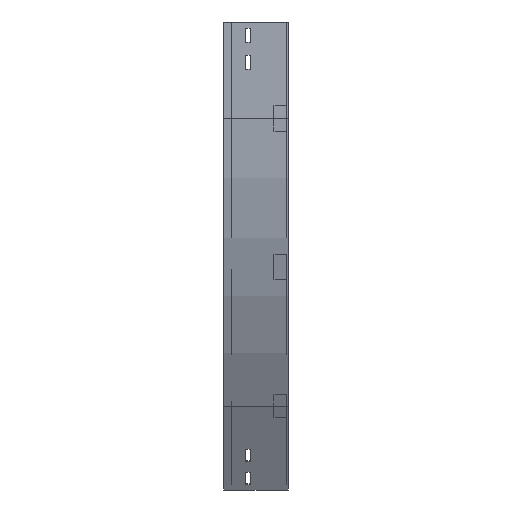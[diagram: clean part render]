
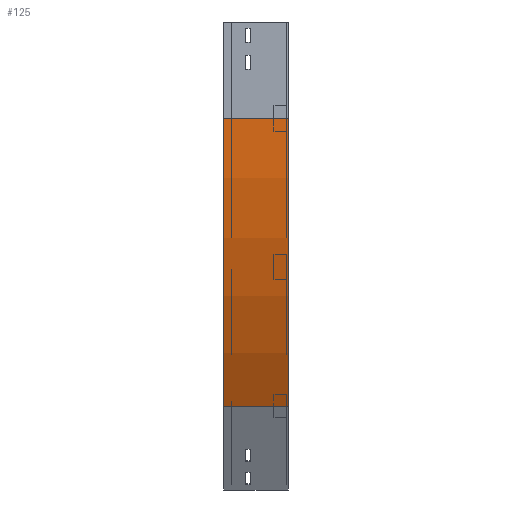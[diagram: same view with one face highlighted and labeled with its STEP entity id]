
A CAD part, left-side view. The second image highlights one B-rep face of the part: STEP entity #125.
In plain terms, the highlighted cylindrical face has radius 900 mm (diameter 1800 mm), a partial arc.
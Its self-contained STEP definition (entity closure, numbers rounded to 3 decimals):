
#45 = DIRECTION ( 'NONE',  ( 0., -1., 0. ) ) ;
#96 = CARTESIAN_POINT ( 'NONE',  ( 120.577, 0., -600. ) ) ;
#125 = ADVANCED_FACE ( 'NONE', ( #3078 ), #1334, .T. ) ;
#146 = DIRECTION ( 'NONE',  ( 0., 0., -1. ) ) ;
#183 = AXIS2_PLACEMENT_3D ( 'NONE', #579, #942, #921 ) ;
#185 = LINE ( 'NONE', #2863, #2512 ) ;
#296 = EDGE_CURVE ( 'NONE', #1689, #575, #185, .T. ) ;
#575 = VERTEX_POINT ( 'NONE', #3126 ) ;
#579 = CARTESIAN_POINT ( 'NONE',  ( 900., 0., -150. ) ) ;
#662 = ORIENTED_EDGE ( 'NONE', *, *, #2097, .F. ) ;
#678 = DIRECTION ( 'NONE',  ( 0., -1., 0. ) ) ;
#921 = DIRECTION ( 'NONE',  ( -1., 0., 0. ) ) ;
#942 = DIRECTION ( 'NONE',  ( 0., -1., 0. ) ) ;
#1213 = EDGE_CURVE ( 'NONE', #1689, #2585, #1703, .T. ) ;
#1255 = LINE ( 'NONE', #1805, #1556 ) ;
#1334 = CYLINDRICAL_SURFACE ( 'NONE', #3140, 900. ) ;
#1364 = EDGE_LOOP ( 'NONE', ( #662, #3177, #2103, #3266 ) ) ;
#1556 = VECTOR ( 'NONE', #45, 1000. ) ;
#1676 = EDGE_CURVE ( 'NONE', #2585, #2874, #1255, .T. ) ;
#1689 = VERTEX_POINT ( 'NONE', #1788 ) ;
#1703 = CIRCLE ( 'NONE', #2554, 900. ) ;
#1788 = CARTESIAN_POINT ( 'NONE',  ( 0., 100., -150. ) ) ;
#1805 = CARTESIAN_POINT ( 'NONE',  ( 120.577, 0., -600. ) ) ;
#2093 = CARTESIAN_POINT ( 'NONE',  ( 900., 100., -150. ) ) ;
#2097 = EDGE_CURVE ( 'NONE', #575, #2874, #2978, .T. ) ;
#2103 = ORIENTED_EDGE ( 'NONE', *, *, #1213, .T. ) ;
#2202 = DIRECTION ( 'NONE',  ( 0., -1., 0. ) ) ;
#2512 = VECTOR ( 'NONE', #3157, 1000. ) ;
#2554 = AXIS2_PLACEMENT_3D ( 'NONE', #2093, #678, #2969 ) ;
#2585 = VERTEX_POINT ( 'NONE', #3443 ) ;
#2730 = CARTESIAN_POINT ( 'NONE',  ( 900., 0., -150. ) ) ;
#2863 = CARTESIAN_POINT ( 'NONE',  ( 0., 0., -150. ) ) ;
#2874 = VERTEX_POINT ( 'NONE', #96 ) ;
#2969 = DIRECTION ( 'NONE',  ( -1., 0., 0. ) ) ;
#2978 = CIRCLE ( 'NONE', #183, 900. ) ;
#3078 = FACE_OUTER_BOUND ( 'NONE', #1364, .T. ) ;
#3126 = CARTESIAN_POINT ( 'NONE',  ( 0., 0., -150. ) ) ;
#3140 = AXIS2_PLACEMENT_3D ( 'NONE', #2730, #2202, #146 ) ;
#3157 = DIRECTION ( 'NONE',  ( 0., -1., 0. ) ) ;
#3177 = ORIENTED_EDGE ( 'NONE', *, *, #296, .F. ) ;
#3266 = ORIENTED_EDGE ( 'NONE', *, *, #1676, .T. ) ;
#3443 = CARTESIAN_POINT ( 'NONE',  ( 120.577, 100., -600. ) ) ;
